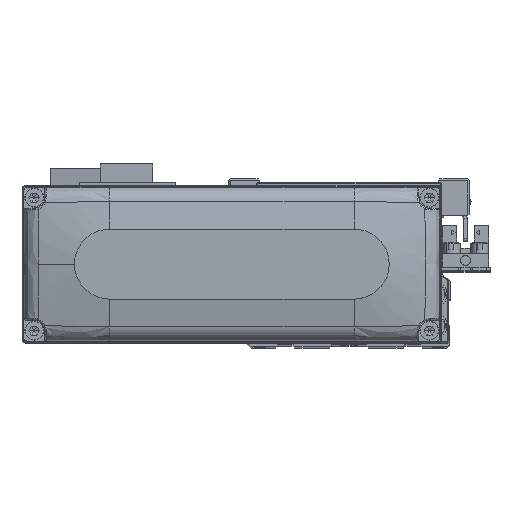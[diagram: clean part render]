
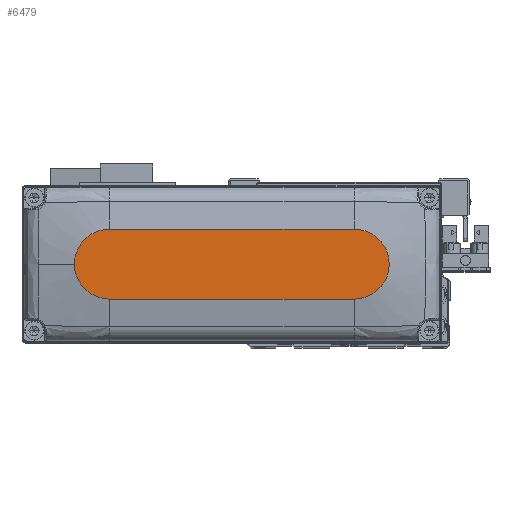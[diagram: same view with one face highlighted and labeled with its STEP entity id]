
A CAD part, top view. The second image highlights one B-rep face of the part: STEP entity #6479.
In plain terms, the highlighted planar face has unit normal (0, 0, 1).
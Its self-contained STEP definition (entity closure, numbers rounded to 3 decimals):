
#156 = ORIENTED_EDGE ( 'NONE', *, *, #26903, .T. ) ;
#2618 = VERTEX_POINT ( 'NONE', #32554 ) ;
#3299 = LINE ( 'NONE', #14535, #6029 ) ;
#3519 = DIRECTION ( 'NONE',  ( 1., 0., 0. ) ) ;
#6029 = VECTOR ( 'NONE', #25744, 1000. ) ;
#6479 = ADVANCED_FACE ( 'NONE', ( #9814 ), #21030, .T. ) ;
#6648 = AXIS2_PLACEMENT_3D ( 'NONE', #32264, #7040, #18263 ) ;
#7002 = EDGE_CURVE ( 'NONE', #19421, #33379, #30191, .T. ) ;
#7040 = DIRECTION ( 'NONE',  ( 0., 0., 1. ) ) ;
#7265 = DIRECTION ( 'NONE',  ( 0., 0., 1. ) ) ;
#7797 = CIRCLE ( 'NONE', #28393, 10. ) ;
#8580 = AXIS2_PLACEMENT_3D ( 'NONE', #17519, #28744, #3519 ) ;
#9814 = FACE_OUTER_BOUND ( 'NONE', #24256, .T. ) ;
#10076 = CARTESIAN_POINT ( 'NONE',  ( -35., 10., 28. ) ) ;
#10992 = DIRECTION ( 'NONE',  ( 0., 0., 1. ) ) ;
#14117 = CARTESIAN_POINT ( 'NONE',  ( 35., 10., 28. ) ) ;
#14220 = ORIENTED_EDGE ( 'NONE', *, *, #30548, .T. ) ;
#14332 = AXIS2_PLACEMENT_3D ( 'NONE', #32486, #7265, #18502 ) ;
#14535 = CARTESIAN_POINT ( 'NONE',  ( -35., -10., 28. ) ) ;
#14591 = VECTOR ( 'NONE', #21301, 1000. ) ;
#15087 = VERTEX_POINT ( 'NONE', #35136 ) ;
#16687 = ORIENTED_EDGE ( 'NONE', *, *, #23547, .T. ) ;
#17519 = CARTESIAN_POINT ( 'NONE',  ( 35., 0., 28. ) ) ;
#18263 = DIRECTION ( 'NONE',  ( 1., 0., 0. ) ) ;
#18502 = DIRECTION ( 'NONE',  ( 1., 0., 0. ) ) ;
#19158 = ORIENTED_EDGE ( 'NONE', *, *, #23916, .T. ) ;
#19421 = VERTEX_POINT ( 'NONE', #26627 ) ;
#19687 = VERTEX_POINT ( 'NONE', #14117 ) ;
#21030 = PLANE ( 'NONE',  #6648 ) ;
#21301 = DIRECTION ( 'NONE',  ( -1., 0., 0. ) ) ;
#22216 = DIRECTION ( 'NONE',  ( 1., 0., 0. ) ) ;
#23547 = EDGE_CURVE ( 'NONE', #15087, #19421, #3299, .T. ) ;
#23916 = EDGE_CURVE ( 'NONE', #2618, #15087, #7797, .T. ) ;
#24256 = EDGE_LOOP ( 'NONE', ( #14220, #19158, #16687, #30519, #156 ) ) ;
#24434 = CIRCLE ( 'NONE', #8580, 10. ) ;
#25744 = DIRECTION ( 'NONE',  ( 1., 0., 0. ) ) ;
#26627 = CARTESIAN_POINT ( 'NONE',  ( 35., -10., 28. ) ) ;
#26903 = EDGE_CURVE ( 'NONE', #33379, #19687, #24434, .T. ) ;
#28393 = AXIS2_PLACEMENT_3D ( 'NONE', #36204, #10992, #22216 ) ;
#28744 = DIRECTION ( 'NONE',  ( 0., 0., 1. ) ) ;
#30106 = CARTESIAN_POINT ( 'NONE',  ( 45., 0., 28. ) ) ;
#30191 = CIRCLE ( 'NONE', #14332, 10. ) ;
#30519 = ORIENTED_EDGE ( 'NONE', *, *, #7002, .T. ) ;
#30548 = EDGE_CURVE ( 'NONE', #19687, #2618, #35297, .T. ) ;
#32264 = CARTESIAN_POINT ( 'NONE',  ( 0., 0., 28. ) ) ;
#32486 = CARTESIAN_POINT ( 'NONE',  ( 35., 0., 28. ) ) ;
#32554 = CARTESIAN_POINT ( 'NONE',  ( -35., 10., 28. ) ) ;
#33379 = VERTEX_POINT ( 'NONE', #30106 ) ;
#35136 = CARTESIAN_POINT ( 'NONE',  ( -35., -10., 28. ) ) ;
#35297 = LINE ( 'NONE', #10076, #14591 ) ;
#36204 = CARTESIAN_POINT ( 'NONE',  ( -35., 0., 28. ) ) ;
